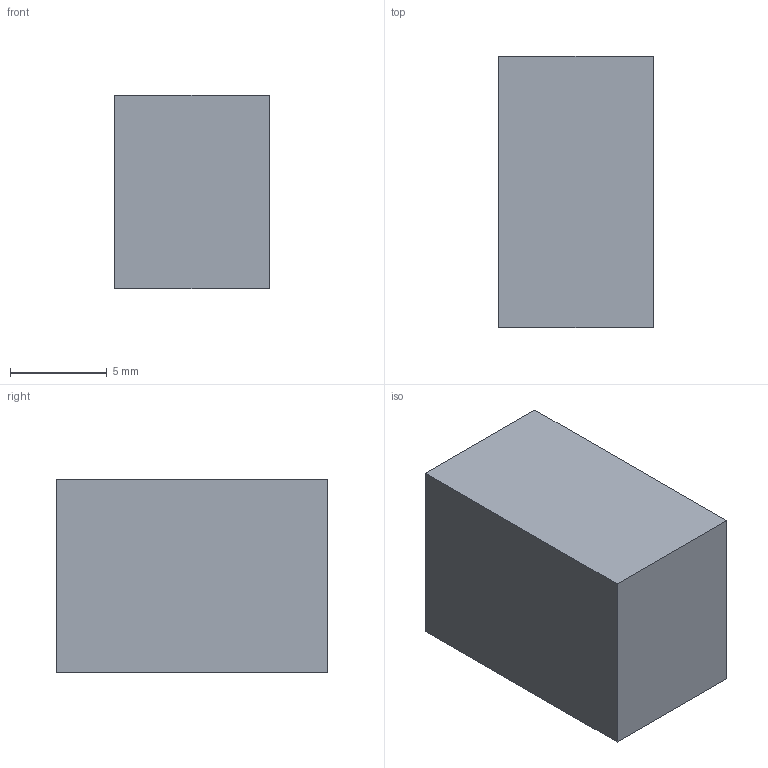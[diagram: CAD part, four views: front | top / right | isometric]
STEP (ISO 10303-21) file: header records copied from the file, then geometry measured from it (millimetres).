
FILE_DESCRIPTION(('Open CASCADE Model'),'2;1');
FILE_NAME('Open CASCADE Shape Model','2026-10-06T03:35:42',('Author'),( 'Open CASCADE'),'Open CASCADE STEP processor 7.8','Open CASCADE 7.8' ,'Unknown');
FILE_SCHEMA(('AUTOMOTIVE_DESIGN { 1 0 10303 214 1 1 1 1 }'));
Length unit declared in the file: millimetre
Products named in the file (1): Open CASCADE STEP translator 7.8 17
Bounding box: 8 x 14 x 10 mm (x, y, z)
Volume: 1120 mm3; surface area: 664 mm2
Topology: 1 solids, 1 shells, 6 faces, 12 edges, 8 vertices
Faces by surface type: plane 6
Entity records: 322 total; most frequent: CARTESIAN_POINT 51, DIRECTION 50, LINE 36, VECTOR 36, ORIENTED_EDGE 24, PCURVE 24, DEFINITIONAL_REPRESENTATION 24, EDGE_CURVE 12
